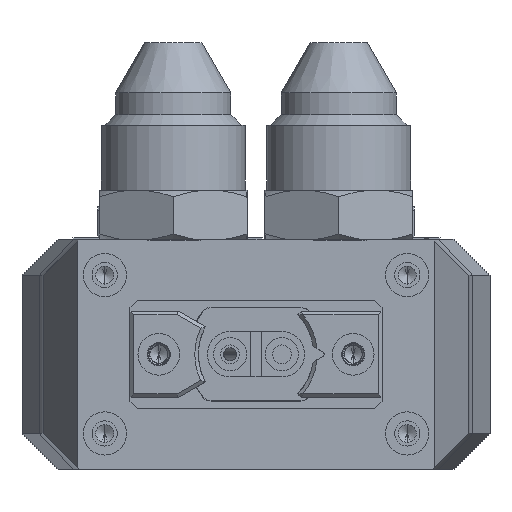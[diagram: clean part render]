
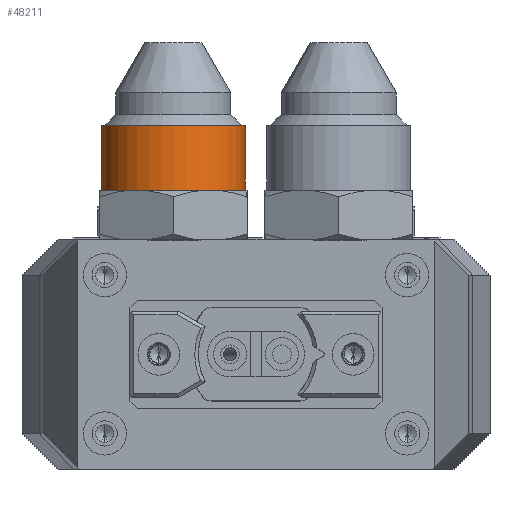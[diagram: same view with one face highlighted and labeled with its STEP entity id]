
A CAD part, front view. The second image highlights one B-rep face of the part: STEP entity #48211.
In plain terms, the highlighted cylindrical face has radius 10 mm (diameter 20 mm), a partial arc.
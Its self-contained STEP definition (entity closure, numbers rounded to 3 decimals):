
#1754 = LINE ( 'NONE', #40777, #24989 ) ;
#3085 = CARTESIAN_POINT ( 'NONE',  ( -87.429, -135.418, 1052.575 ) ) ;
#6676 = EDGE_CURVE ( 'NONE', #14019, #26417, #11984, .T. ) ;
#8627 = LINE ( 'NONE', #3085, #65652 ) ;
#8772 = DIRECTION ( 'NONE',  ( 1., 0., 0. ) ) ;
#9088 = AXIS2_PLACEMENT_3D ( 'NONE', #41072, #56659, #20989 ) ;
#9123 = CARTESIAN_POINT ( 'NONE',  ( -97.429, -135.418, 1052.575 ) ) ;
#11984 = CIRCLE ( 'NONE', #33044, 10. ) ;
#12496 = CARTESIAN_POINT ( 'NONE',  ( -107.429, -135.418, 1021.303 ) ) ;
#12941 = EDGE_CURVE ( 'NONE', #14019, #20495, #1754, .T. ) ;
#14019 = VERTEX_POINT ( 'NONE', #12496 ) ;
#15250 = EDGE_CURVE ( 'NONE', #29309, #20495, #21278, .T. ) ;
#19283 = CARTESIAN_POINT ( 'NONE',  ( -87.429, -135.418, 1030.303 ) ) ;
#20495 = VERTEX_POINT ( 'NONE', #28812 ) ;
#20989 = DIRECTION ( 'NONE',  ( 1., 0., 0. ) ) ;
#21278 = CIRCLE ( 'NONE', #9088, 10. ) ;
#24989 = VECTOR ( 'NONE', #35582, 1000. ) ;
#25534 = DIRECTION ( 'NONE',  ( 1., 0., 0. ) ) ;
#26417 = VERTEX_POINT ( 'NONE', #56903 ) ;
#26477 = EDGE_CURVE ( 'NONE', #26417, #29309, #8627, .T. ) ;
#28047 = ORIENTED_EDGE ( 'NONE', *, *, #15250, .T. ) ;
#28812 = CARTESIAN_POINT ( 'NONE',  ( -107.429, -135.418, 1030.303 ) ) ;
#29309 = VERTEX_POINT ( 'NONE', #19283 ) ;
#30520 = ORIENTED_EDGE ( 'NONE', *, *, #26477, .T. ) ;
#30921 = EDGE_LOOP ( 'NONE', ( #47992, #37409, #30520, #28047 ) ) ;
#33044 = AXIS2_PLACEMENT_3D ( 'NONE', #46978, #41775, #25534 ) ;
#34959 = DIRECTION ( 'NONE',  ( 0., 0., 1. ) ) ;
#35582 = DIRECTION ( 'NONE',  ( 0., 0., 1. ) ) ;
#37409 = ORIENTED_EDGE ( 'NONE', *, *, #6676, .T. ) ;
#39282 = CYLINDRICAL_SURFACE ( 'NONE', #46329, 10. ) ;
#40777 = CARTESIAN_POINT ( 'NONE',  ( -107.429, -135.418, 1052.575 ) ) ;
#41072 = CARTESIAN_POINT ( 'NONE',  ( -97.429, -135.418, 1030.303 ) ) ;
#41775 = DIRECTION ( 'NONE',  ( 0., 0., 1. ) ) ;
#45835 = FACE_OUTER_BOUND ( 'NONE', #30921, .T. ) ;
#46329 = AXIS2_PLACEMENT_3D ( 'NONE', #9123, #55203, #8772 ) ;
#46978 = CARTESIAN_POINT ( 'NONE',  ( -97.429, -135.418, 1021.303 ) ) ;
#47992 = ORIENTED_EDGE ( 'NONE', *, *, #12941, .F. ) ;
#48211 = ADVANCED_FACE ( 'NONE', ( #45835 ), #39282, .T. ) ;
#55203 = DIRECTION ( 'NONE',  ( 0., 0., 1. ) ) ;
#56659 = DIRECTION ( 'NONE',  ( 0., 0., -1. ) ) ;
#56903 = CARTESIAN_POINT ( 'NONE',  ( -87.429, -135.418, 1021.303 ) ) ;
#65652 = VECTOR ( 'NONE', #34959, 1000. ) ;
